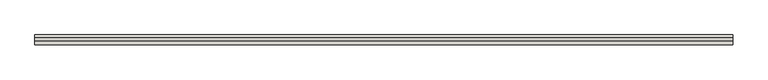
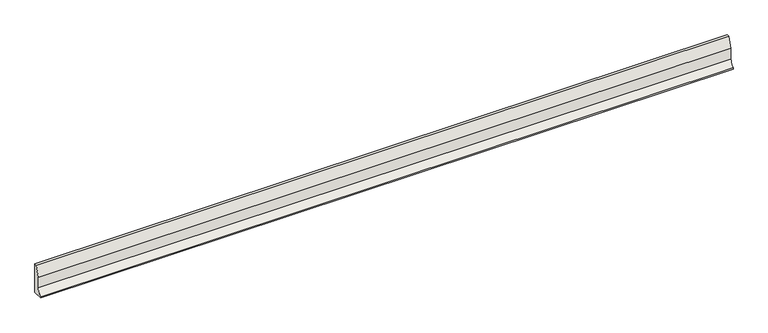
"""IFC4 building model written with IfcOpenShell, lengths in millimetres: wall geometry, GM_PC_WPB_ACO kerb PB straight_ACO : PB H200 plain."""

from ifc_helpers import new_model, si_unit, point, frame, frame_2d, origin, place, context, project, spatial, polyline, circle_curve, trimmed, segment, composite_curve, outline, extrude, source, transform, mapped, element, save


def wall_3c18d2a6(model_context):
    return source(origin(), model_context, "Body", "SweptSolid", [
        extrude(outline(composite_curve([segment(polyline([(-40.0039527, 130.0277035), (-14.8571389, 200.0197419), (0.0, 200.0197419), (0.0, 0.0), (-65.0223078, 0.0), (-65.0223078, 8.9062534)]), True, "CONTINUOUS"), segment(trimmed(circle_curve(frame_2d((-94.2239515, 54.592465)), 54.2214526), [point((-65.0223078, 8.9062534))], [point((-40.0039527, 54.9895287))], True, "CARTESIAN"), True, "CONTINUOUS"), segment(polyline([(-40.0039527, 54.9895287), (-40.0039527, 130.0277035)]), True, "CONTINUOUS")], self_intersect=False)), frame((0.0, 0.0, 0.0), z_axis=(1.0, 0.0, 0.0), x_axis=(0.0, 1.0, 0.0)), (0.0, 0.0, 1.0), 4600.0),
    ])


if __name__ == "__main__":
    model = new_model("IFC4")
    model_context = context("Model", 3, world=origin())
    ifc_project = project(units=[si_unit("LENGTHUNIT", "METRE", prefix="MILLI")], contexts=[model_context])
    site = spatial("IfcSite", under=ifc_project)
    building = spatial("IfcBuilding", under=site)
    placement = place(None, origin())
    wall_shape = wall_3c18d2a6(model_context)
    element("IfcWall", 1, ObjectType="GM_PC_WPB_ACO kerb PB straight_ACO : PB H200 plain", at=placement, inside=building, context=model_context, shape_type="MappedRepresentation", body=[
        mapped(wall_shape, transform((0.0, 0.0, 0.0), x_axis=(1.0, 0.0, 0.0), y_axis=(0.0, 1.0, 0.0), z_axis=(0.0, 0.0, 1.0))),
    ])
    save(model, "model.ifc")
